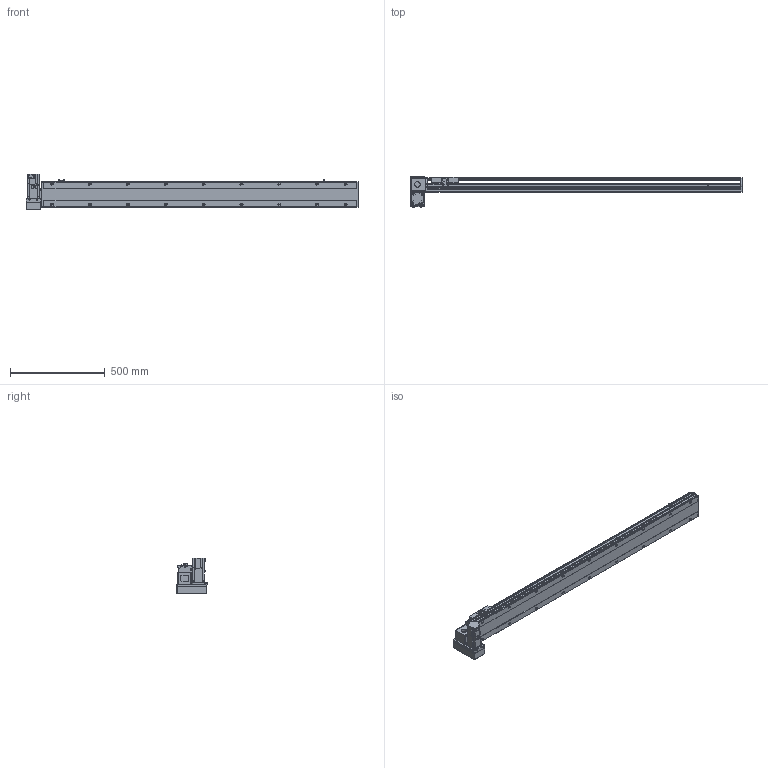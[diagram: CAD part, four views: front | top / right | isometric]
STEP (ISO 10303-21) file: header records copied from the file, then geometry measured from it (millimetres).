
FILE_DESCRIPTION(/* description */ ('STEP AP214'),/* implementation_level */ '2;1');
FILE_NAME(/* name */ 'PBS140-P40-S1400-LD-T40-C1-N(0)',/* time_stamp */ '2022-06-06T07:55:20+02:00',/* author */ ('License CC BY-ND 4.0'),/* organization */ ('CADENAS'),/* preprocessor_version */ 'ST-DEVELOPER v18.102',/* originating_system */ 'PARTsolutions',/* authorisation */ ' ');
FILE_SCHEMA (('AUTOMOTIVE_DESIGN {1 0 10303 214 3 1 1}'));
Length unit declared in the file: millimetre
Products named in the file (7): PBS140-P40-S1400-LD-T40-C1-N(0); PBS140_sensor; PBS140_plant; PBS140_sliser; T40-p1; PBS140T-LD_motors; PBS140-S1400()_body
Assembly tree (8 placements, depth 2):
  PBS140-P40-S1400-LD-T40-C1-N(0)
    PBS140_sensor  x3
    PBS140_plant
    PBS140_sliser
    T40-p1
    PBS140T-LD_motors
    PBS140-S1400()_body
Bounding box: 1754 x 162 x 189.7 mm (x, y, z)
Volume: 8190046.8 mm3; surface area: 1416940 mm2
Topology: 8 solids, 8 shells, 1091 faces, 2876 edges, 1879 vertices
Faces by surface type: plane 698, cylinder 339, cone 44, sphere 8, torus 2
Full cylindrical faces by diameter (mm): 3.242 x4, 4 x2, 4.134 x4, 4.4 x8, 4.5 x2, 4.8 x4, 4.917 x26, 5.5 x7, 6 x2, 7 x20, 7.5 x8, 8 x12, 8.5 x4, 10.5 x18, 14 x1, 30 x2, 50 x2
Entity records: 31103 total; most frequent: CARTESIAN_POINT 5777, DIRECTION 5267, ORIENTED_EDGE 4972, EDGE_CURVE 2486, AXIS2_PLACEMENT_3D 1837, VERTEX_POINT 1725, LINE 1593, VECTOR 1593
